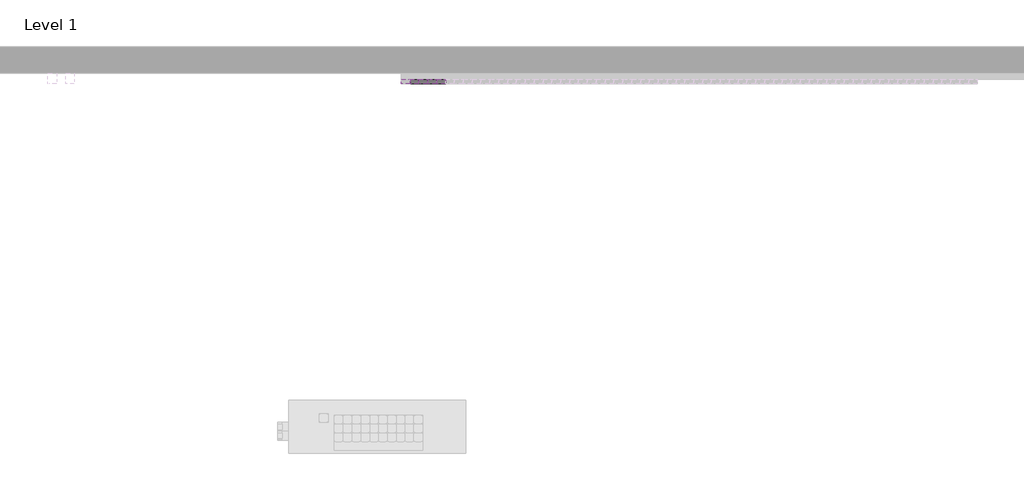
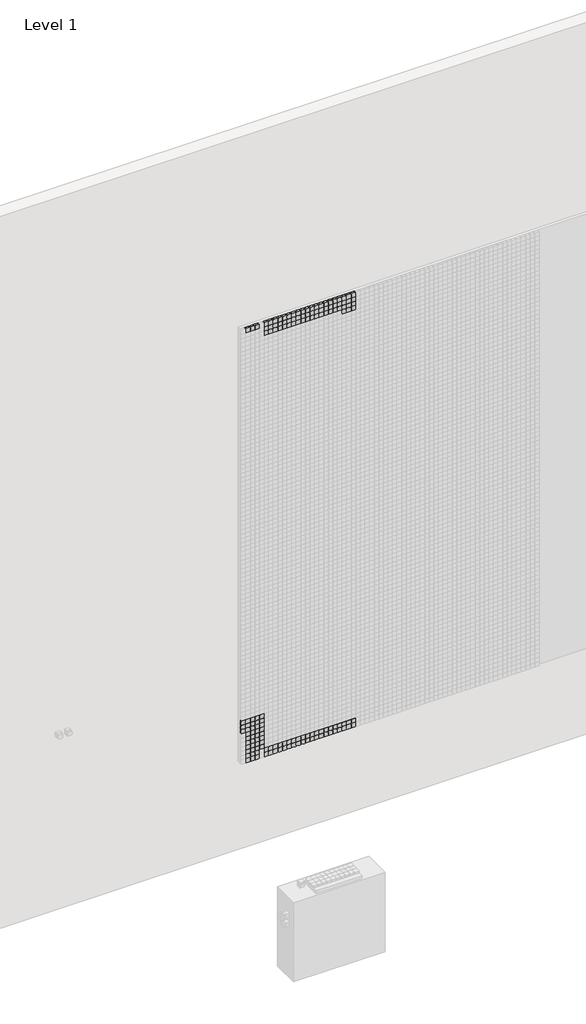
# One storey, part 7 of 71: 147 proxies.
"""IFC4 building model written with IfcOpenShell, lengths in millimetres."""

from ifc_helpers import new_model, si_unit, origin, place, context, project, spatial, transform, mapped, element, save
from components import generic_models_afde289c

model = new_model("IFC4")

# Units and contexts
model_context = context("Model", 3, world=origin())
ifc_project = project(units=[si_unit("LENGTHUNIT", "METRE", prefix="MILLI")], contexts=[model_context])

# Site, building, storey
site = spatial("IfcSite", under=ifc_project)
building = spatial("IfcBuilding", under=site)
storey = spatial("IfcBuildingStorey", under=building, Name="Level 1", Elevation=0.0)

# Proxies
placement = place(None, origin())
generic_models_shape = generic_models_afde289c(model_context)
element("IfcBuildingElementProxy", 1, Name="Pixel_M : Pixel_M", ObjectType="Pixel_M : Pixel_M", at=placement, inside=storey, context=model_context, shape_type="MappedRepresentation", body=[
    mapped(generic_models_shape, transform((5962.4280941, -75.0, 1016.3566215), x_axis=(1.0, 0.0, 0.0), y_axis=(0.0, 0.0, 1.0), z_axis=(0.0, -1.0, 0.0))),
])
element("IfcBuildingElementProxy", 2, Name="Pixel_M : Pixel_M", ObjectType="Pixel_M : Pixel_M", at=placement, inside=storey, context=model_context, shape_type="MappedRepresentation", body=[
    mapped(generic_models_shape, transform((5912.4280941, -75.0, 1016.3566215), x_axis=(1.0, 0.0, 0.0), y_axis=(0.0, 0.0, 1.0), z_axis=(0.0, -1.0, 0.0))),
])
element("IfcBuildingElementProxy", 3, Name="Pixel_M : Pixel_M", ObjectType="Pixel_M : Pixel_M", at=placement, inside=storey, context=model_context, shape_type="MappedRepresentation", body=[
    mapped(generic_models_shape, transform((5862.4280941, -75.0, 1016.3566215), x_axis=(1.0, 0.0, 0.0), y_axis=(0.0, 0.0, 1.0), z_axis=(0.0, -1.0, 0.0))),
])
element("IfcBuildingElementProxy", 4, Name="Pixel_M : Pixel_M", ObjectType="Pixel_M : Pixel_M", at=placement, inside=storey, context=model_context, shape_type="MappedRepresentation", body=[
    mapped(generic_models_shape, transform((5812.4280941, -75.0, 1016.3566215), x_axis=(1.0, 0.0, 0.0), y_axis=(0.0, 0.0, 1.0), z_axis=(0.0, -1.0, 0.0))),
])
element("IfcBuildingElementProxy", 5, Name="Pixel_M : Pixel_M", ObjectType="Pixel_M : Pixel_M", at=placement, inside=storey, context=model_context, shape_type="MappedRepresentation", body=[
    mapped(generic_models_shape, transform((5762.4280941, -75.0, 1016.3566215), x_axis=(1.0, 0.0, 0.0), y_axis=(0.0, 0.0, 1.0), z_axis=(0.0, -1.0, 0.0))),
])
element("IfcBuildingElementProxy", 6, Name="Pixel_M : Pixel_M", ObjectType="Pixel_M : Pixel_M", at=placement, inside=storey, context=model_context, shape_type="MappedRepresentation", body=[
    mapped(generic_models_shape, transform((5712.4280941, -75.0, 1016.3566215), x_axis=(1.0, 0.0, 0.0), y_axis=(0.0, 0.0, 1.0), z_axis=(0.0, -1.0, 0.0))),
])
element("IfcBuildingElementProxy", 7, Name="Pixel_M : Pixel_M", ObjectType="Pixel_M : Pixel_M", at=placement, inside=storey, context=model_context, shape_type="MappedRepresentation", body=[
    mapped(generic_models_shape, transform((5662.4280941, -75.0, 1016.3566215), x_axis=(1.0, 0.0, 0.0), y_axis=(0.0, 0.0, 1.0), z_axis=(0.0, -1.0, 0.0))),
])
element("IfcBuildingElementProxy", 8, Name="Pixel_M : Pixel_M", ObjectType="Pixel_M : Pixel_M", at=placement, inside=storey, context=model_context, shape_type="MappedRepresentation", body=[
    mapped(generic_models_shape, transform((5612.4280941, -75.0, 1016.3566215), x_axis=(1.0, 0.0, 0.0), y_axis=(0.0, 0.0, 1.0), z_axis=(0.0, -1.0, 0.0))),
])
element("IfcBuildingElementProxy", 9, Name="Pixel_M : Pixel_M", ObjectType="Pixel_M : Pixel_M", at=placement, inside=storey, context=model_context, shape_type="MappedRepresentation", body=[
    mapped(generic_models_shape, transform((5562.4280941, -75.0, 1016.3566215), x_axis=(1.0, 0.0, 0.0), y_axis=(0.0, 0.0, 1.0), z_axis=(0.0, -1.0, 0.0))),
])
element("IfcBuildingElementProxy", 10, Name="Pixel_M : Pixel_M", ObjectType="Pixel_M : Pixel_M", at=placement, inside=storey, context=model_context, shape_type="MappedRepresentation", body=[
    mapped(generic_models_shape, transform((5512.4280941, -75.0, 1016.3566215), x_axis=(1.0, 0.0, 0.0), y_axis=(0.0, 0.0, 1.0), z_axis=(0.0, -1.0, 0.0))),
])
element("IfcBuildingElementProxy", 11, Name="Pixel_M : Pixel_M", ObjectType="Pixel_M : Pixel_M", at=placement, inside=storey, context=model_context, shape_type="MappedRepresentation", body=[
    mapped(generic_models_shape, transform((5462.4280941, -75.0, 1016.3566215), x_axis=(1.0, 0.0, 0.0), y_axis=(0.0, 0.0, 1.0), z_axis=(0.0, -1.0, 0.0))),
])
element("IfcBuildingElementProxy", 12, Name="Pixel_M : Pixel_M", ObjectType="Pixel_M : Pixel_M", at=placement, inside=storey, context=model_context, shape_type="MappedRepresentation", body=[
    mapped(generic_models_shape, transform((5412.4280941, -75.0, 1016.3566215), x_axis=(1.0, 0.0, 0.0), y_axis=(0.0, 0.0, 1.0), z_axis=(0.0, -1.0, 0.0))),
])
element("IfcBuildingElementProxy", 13, Name="Pixel_M : Pixel_M", ObjectType="Pixel_M : Pixel_M", at=placement, inside=storey, context=model_context, shape_type="MappedRepresentation", body=[
    mapped(generic_models_shape, transform((5362.4280941, -75.0, 1016.3566215), x_axis=(1.0, 0.0, 0.0), y_axis=(0.0, 0.0, 1.0), z_axis=(0.0, -1.0, 0.0))),
])
element("IfcBuildingElementProxy", 14, Name="Pixel_M : Pixel_M", ObjectType="Pixel_M : Pixel_M", at=placement, inside=storey, context=model_context, shape_type="MappedRepresentation", body=[
    mapped(generic_models_shape, transform((5312.4280941, -75.0, 1016.3566215), x_axis=(1.0, 0.0, 0.0), y_axis=(0.0, 0.0, 1.0), z_axis=(0.0, -1.0, 0.0))),
])
element("IfcBuildingElementProxy", 15, Name="Pixel_M : Pixel_M", ObjectType="Pixel_M : Pixel_M", at=placement, inside=storey, context=model_context, shape_type="MappedRepresentation", body=[
    mapped(generic_models_shape, transform((5262.4280941, -75.0, 1016.3566215), x_axis=(1.0, 0.0, 0.0), y_axis=(0.0, 0.0, 1.0), z_axis=(0.0, -1.0, 0.0))),
])
element("IfcBuildingElementProxy", 16, Name="Pixel_M : Pixel_M", ObjectType="Pixel_M : Pixel_M", at=placement, inside=storey, context=model_context, shape_type="MappedRepresentation", body=[
    mapped(generic_models_shape, transform((5212.4280941, -75.0, 1016.3566215), x_axis=(1.0, 0.0, 0.0), y_axis=(0.0, 0.0, 1.0), z_axis=(0.0, -1.0, 0.0))),
])
element("IfcBuildingElementProxy", 17, Name="Pixel_M : Pixel_M", ObjectType="Pixel_M : Pixel_M", at=placement, inside=storey, context=model_context, shape_type="MappedRepresentation", body=[
    mapped(generic_models_shape, transform((5162.4280941, -75.0, 1016.3566215), x_axis=(1.0, 0.0, 0.0), y_axis=(0.0, 0.0, 1.0), z_axis=(0.0, -1.0, 0.0))),
])
element("IfcBuildingElementProxy", 18, Name="Pixel_M : Pixel_M", ObjectType="Pixel_M : Pixel_M", at=placement, inside=storey, context=model_context, shape_type="MappedRepresentation", body=[
    mapped(generic_models_shape, transform((5112.4280941, -75.0, 1016.3566215), x_axis=(1.0, 0.0, 0.0), y_axis=(0.0, 0.0, 1.0), z_axis=(0.0, -1.0, 0.0))),
])
element("IfcBuildingElementProxy", 19, Name="Pixel_M : Pixel_M", ObjectType="Pixel_M : Pixel_M", at=placement, inside=storey, context=model_context, shape_type="MappedRepresentation", body=[
    mapped(generic_models_shape, transform((5062.4280941, -75.0, 1016.3566215), x_axis=(1.0, 0.0, 0.0), y_axis=(0.0, 0.0, 1.0), z_axis=(0.0, -1.0, 0.0))),
])
element("IfcBuildingElementProxy", 20, Name="Pixel_M : Pixel_M", ObjectType="Pixel_M : Pixel_M", at=placement, inside=storey, context=model_context, shape_type="MappedRepresentation", body=[
    mapped(generic_models_shape, transform((5012.4280941, -75.0, 1016.3566215), x_axis=(1.0, 0.0, 0.0), y_axis=(0.0, 0.0, 1.0), z_axis=(0.0, -1.0, 0.0))),
])
element("IfcBuildingElementProxy", 21, Name="Pixel_M : Pixel_M", ObjectType="Pixel_M : Pixel_M", at=placement, inside=storey, context=model_context, shape_type="MappedRepresentation", body=[
    mapped(generic_models_shape, transform((5962.4280941, -75.0, 1066.3566215), x_axis=(1.0, 0.0, 0.0), y_axis=(0.0, 0.0, 1.0), z_axis=(0.0, -1.0, 0.0))),
])
element("IfcBuildingElementProxy", 22, Name="Pixel_M : Pixel_M", ObjectType="Pixel_M : Pixel_M", at=placement, inside=storey, context=model_context, shape_type="MappedRepresentation", body=[
    mapped(generic_models_shape, transform((5912.4280941, -75.0, 1066.3566215), x_axis=(1.0, 0.0, 0.0), y_axis=(0.0, 0.0, 1.0), z_axis=(0.0, -1.0, 0.0))),
])
element("IfcBuildingElementProxy", 23, Name="Pixel_M : Pixel_M", ObjectType="Pixel_M : Pixel_M", at=placement, inside=storey, context=model_context, shape_type="MappedRepresentation", body=[
    mapped(generic_models_shape, transform((5862.4280941, -75.0, 1066.3566215), x_axis=(1.0, 0.0, 0.0), y_axis=(0.0, 0.0, 1.0), z_axis=(0.0, -1.0, 0.0))),
])
element("IfcBuildingElementProxy", 24, Name="Pixel_M : Pixel_M", ObjectType="Pixel_M : Pixel_M", at=placement, inside=storey, context=model_context, shape_type="MappedRepresentation", body=[
    mapped(generic_models_shape, transform((5812.4280941, -75.0, 1066.3566215), x_axis=(1.0, 0.0, 0.0), y_axis=(0.0, 0.0, 1.0), z_axis=(0.0, -1.0, 0.0))),
])
element("IfcBuildingElementProxy", 25, Name="Pixel_M : Pixel_M", ObjectType="Pixel_M : Pixel_M", at=placement, inside=storey, context=model_context, shape_type="MappedRepresentation", body=[
    mapped(generic_models_shape, transform((5762.4280941, -75.0, 1066.3566215), x_axis=(1.0, 0.0, 0.0), y_axis=(0.0, 0.0, 1.0), z_axis=(0.0, -1.0, 0.0))),
])
element("IfcBuildingElementProxy", 26, Name="Pixel_M : Pixel_M", ObjectType="Pixel_M : Pixel_M", at=placement, inside=storey, context=model_context, shape_type="MappedRepresentation", body=[
    mapped(generic_models_shape, transform((5712.4280941, -75.0, 1066.3566215), x_axis=(1.0, 0.0, 0.0), y_axis=(0.0, 0.0, 1.0), z_axis=(0.0, -1.0, 0.0))),
])
element("IfcBuildingElementProxy", 27, Name="Pixel_M : Pixel_M", ObjectType="Pixel_M : Pixel_M", at=placement, inside=storey, context=model_context, shape_type="MappedRepresentation", body=[
    mapped(generic_models_shape, transform((5662.4280941, -75.0, 1066.3566215), x_axis=(1.0, 0.0, 0.0), y_axis=(0.0, 0.0, 1.0), z_axis=(0.0, -1.0, 0.0))),
])
element("IfcBuildingElementProxy", 28, Name="Pixel_M : Pixel_M", ObjectType="Pixel_M : Pixel_M", at=placement, inside=storey, context=model_context, shape_type="MappedRepresentation", body=[
    mapped(generic_models_shape, transform((5612.4280941, -75.0, 1066.3566215), x_axis=(1.0, 0.0, 0.0), y_axis=(0.0, 0.0, 1.0), z_axis=(0.0, -1.0, 0.0))),
])
element("IfcBuildingElementProxy", 29, Name="Pixel_M : Pixel_M", ObjectType="Pixel_M : Pixel_M", at=placement, inside=storey, context=model_context, shape_type="MappedRepresentation", body=[
    mapped(generic_models_shape, transform((5562.4280941, -75.0, 1066.3566215), x_axis=(1.0, 0.0, 0.0), y_axis=(0.0, 0.0, 1.0), z_axis=(0.0, -1.0, 0.0))),
])
element("IfcBuildingElementProxy", 30, Name="Pixel_M : Pixel_M", ObjectType="Pixel_M : Pixel_M", at=placement, inside=storey, context=model_context, shape_type="MappedRepresentation", body=[
    mapped(generic_models_shape, transform((5512.4280941, -75.0, 1066.3566215), x_axis=(1.0, 0.0, 0.0), y_axis=(0.0, 0.0, 1.0), z_axis=(0.0, -1.0, 0.0))),
])
element("IfcBuildingElementProxy", 31, Name="Pixel_M : Pixel_M", ObjectType="Pixel_M : Pixel_M", at=placement, inside=storey, context=model_context, shape_type="MappedRepresentation", body=[
    mapped(generic_models_shape, transform((5462.4280941, -75.0, 1066.3566215), x_axis=(1.0, 0.0, 0.0), y_axis=(0.0, 0.0, 1.0), z_axis=(0.0, -1.0, 0.0))),
])
element("IfcBuildingElementProxy", 32, Name="Pixel_M : Pixel_M", ObjectType="Pixel_M : Pixel_M", at=placement, inside=storey, context=model_context, shape_type="MappedRepresentation", body=[
    mapped(generic_models_shape, transform((5412.4280941, -75.0, 1066.3566215), x_axis=(1.0, 0.0, 0.0), y_axis=(0.0, 0.0, 1.0), z_axis=(0.0, -1.0, 0.0))),
])
element("IfcBuildingElementProxy", 33, Name="Pixel_M : Pixel_M", ObjectType="Pixel_M : Pixel_M", at=placement, inside=storey, context=model_context, shape_type="MappedRepresentation", body=[
    mapped(generic_models_shape, transform((5362.4280941, -75.0, 1066.3566215), x_axis=(1.0, 0.0, 0.0), y_axis=(0.0, 0.0, 1.0), z_axis=(0.0, -1.0, 0.0))),
])
element("IfcBuildingElementProxy", 34, Name="Pixel_M : Pixel_M", ObjectType="Pixel_M : Pixel_M", at=placement, inside=storey, context=model_context, shape_type="MappedRepresentation", body=[
    mapped(generic_models_shape, transform((5312.4280941, -75.0, 1066.3566215), x_axis=(1.0, 0.0, 0.0), y_axis=(0.0, 0.0, 1.0), z_axis=(0.0, -1.0, 0.0))),
])
element("IfcBuildingElementProxy", 35, Name="Pixel_M : Pixel_M", ObjectType="Pixel_M : Pixel_M", at=placement, inside=storey, context=model_context, shape_type="MappedRepresentation", body=[
    mapped(generic_models_shape, transform((5262.4280941, -75.0, 1066.3566215), x_axis=(1.0, 0.0, 0.0), y_axis=(0.0, 0.0, 1.0), z_axis=(0.0, -1.0, 0.0))),
])
element("IfcBuildingElementProxy", 36, Name="Pixel_M : Pixel_M", ObjectType="Pixel_M : Pixel_M", at=placement, inside=storey, context=model_context, shape_type="MappedRepresentation", body=[
    mapped(generic_models_shape, transform((5212.4280941, -75.0, 1066.3566215), x_axis=(1.0, 0.0, 0.0), y_axis=(0.0, 0.0, 1.0), z_axis=(0.0, -1.0, 0.0))),
])
element("IfcBuildingElementProxy", 37, Name="Pixel_M : Pixel_M", ObjectType="Pixel_M : Pixel_M", at=placement, inside=storey, context=model_context, shape_type="MappedRepresentation", body=[
    mapped(generic_models_shape, transform((5162.4280941, -75.0, 1066.3566215), x_axis=(1.0, 0.0, 0.0), y_axis=(0.0, 0.0, 1.0), z_axis=(0.0, -1.0, 0.0))),
])
element("IfcBuildingElementProxy", 38, Name="Pixel_M : Pixel_M", ObjectType="Pixel_M : Pixel_M", at=placement, inside=storey, context=model_context, shape_type="MappedRepresentation", body=[
    mapped(generic_models_shape, transform((5112.4280941, -75.0, 1066.3566215), x_axis=(1.0, 0.0, 0.0), y_axis=(0.0, 0.0, 1.0), z_axis=(0.0, -1.0, 0.0))),
])
element("IfcBuildingElementProxy", 39, Name="Pixel_M : Pixel_M", ObjectType="Pixel_M : Pixel_M", at=placement, inside=storey, context=model_context, shape_type="MappedRepresentation", body=[
    mapped(generic_models_shape, transform((5062.4280941, -75.0, 1066.3566215), x_axis=(1.0, 0.0, 0.0), y_axis=(0.0, 0.0, 1.0), z_axis=(0.0, -1.0, 0.0))),
])
element("IfcBuildingElementProxy", 40, Name="Pixel_M : Pixel_M", ObjectType="Pixel_M : Pixel_M", at=placement, inside=storey, context=model_context, shape_type="MappedRepresentation", body=[
    mapped(generic_models_shape, transform((5012.4280941, -75.0, 1066.3566215), x_axis=(1.0, 0.0, 0.0), y_axis=(0.0, 0.0, 1.0), z_axis=(0.0, -1.0, 0.0))),
])
element("IfcBuildingElementProxy", 41, Name="Pixel_M : Pixel_M", ObjectType="Pixel_M : Pixel_M", at=placement, inside=storey, context=model_context, shape_type="MappedRepresentation", body=[
    mapped(generic_models_shape, transform((5962.4280941, -75.0, 5966.3566215), x_axis=(1.0, 0.0, 0.0), y_axis=(0.0, 0.0, 1.0), z_axis=(0.0, -1.0, 0.0))),
])
element("IfcBuildingElementProxy", 42, Name="Pixel_M : Pixel_M", ObjectType="Pixel_M : Pixel_M", at=placement, inside=storey, context=model_context, shape_type="MappedRepresentation", body=[
    mapped(generic_models_shape, transform((5912.4280941, -75.0, 5966.3566215), x_axis=(1.0, 0.0, 0.0), y_axis=(0.0, 0.0, 1.0), z_axis=(0.0, -1.0, 0.0))),
])
element("IfcBuildingElementProxy", 43, Name="Pixel_M : Pixel_M", ObjectType="Pixel_M : Pixel_M", at=placement, inside=storey, context=model_context, shape_type="MappedRepresentation", body=[
    mapped(generic_models_shape, transform((5862.4280941, -75.0, 5966.3566215), x_axis=(1.0, 0.0, 0.0), y_axis=(0.0, 0.0, 1.0), z_axis=(0.0, -1.0, 0.0))),
])
element("IfcBuildingElementProxy", 44, Name="Pixel_M : Pixel_M", ObjectType="Pixel_M : Pixel_M", at=placement, inside=storey, context=model_context, shape_type="MappedRepresentation", body=[
    mapped(generic_models_shape, transform((5812.4280941, -75.0, 5966.3566215), x_axis=(1.0, 0.0, 0.0), y_axis=(0.0, 0.0, 1.0), z_axis=(0.0, -1.0, 0.0))),
])
element("IfcBuildingElementProxy", 45, Name="Pixel_M : Pixel_M", ObjectType="Pixel_M : Pixel_M", at=placement, inside=storey, context=model_context, shape_type="MappedRepresentation", body=[
    mapped(generic_models_shape, transform((5762.4280941, -75.0, 5966.3566215), x_axis=(1.0, 0.0, 0.0), y_axis=(0.0, 0.0, 1.0), z_axis=(0.0, -1.0, 0.0))),
])
element("IfcBuildingElementProxy", 46, Name="Pixel_M : Pixel_M", ObjectType="Pixel_M : Pixel_M", at=placement, inside=storey, context=model_context, shape_type="MappedRepresentation", body=[
    mapped(generic_models_shape, transform((5712.4280941, -75.0, 5966.3566215), x_axis=(1.0, 0.0, 0.0), y_axis=(0.0, 0.0, 1.0), z_axis=(0.0, -1.0, 0.0))),
])
element("IfcBuildingElementProxy", 47, Name="Pixel_M : Pixel_M", ObjectType="Pixel_M : Pixel_M", at=placement, inside=storey, context=model_context, shape_type="MappedRepresentation", body=[
    mapped(generic_models_shape, transform((5662.4280941, -75.0, 5966.3566215), x_axis=(1.0, 0.0, 0.0), y_axis=(0.0, 0.0, 1.0), z_axis=(0.0, -1.0, 0.0))),
])
element("IfcBuildingElementProxy", 48, Name="Pixel_M : Pixel_M", ObjectType="Pixel_M : Pixel_M", at=placement, inside=storey, context=model_context, shape_type="MappedRepresentation", body=[
    mapped(generic_models_shape, transform((5612.4280941, -75.0, 5966.3566215), x_axis=(1.0, 0.0, 0.0), y_axis=(0.0, 0.0, 1.0), z_axis=(0.0, -1.0, 0.0))),
])
element("IfcBuildingElementProxy", 49, Name="Pixel_M : Pixel_M", ObjectType="Pixel_M : Pixel_M", at=placement, inside=storey, context=model_context, shape_type="MappedRepresentation", body=[
    mapped(generic_models_shape, transform((5562.4280941, -75.0, 5966.3566215), x_axis=(1.0, 0.0, 0.0), y_axis=(0.0, 0.0, 1.0), z_axis=(0.0, -1.0, 0.0))),
])
element("IfcBuildingElementProxy", 50, Name="Pixel_M : Pixel_M", ObjectType="Pixel_M : Pixel_M", at=placement, inside=storey, context=model_context, shape_type="MappedRepresentation", body=[
    mapped(generic_models_shape, transform((5512.4280941, -75.0, 5966.3566215), x_axis=(1.0, 0.0, 0.0), y_axis=(0.0, 0.0, 1.0), z_axis=(0.0, -1.0, 0.0))),
])
element("IfcBuildingElementProxy", 51, Name="Pixel_M : Pixel_M", ObjectType="Pixel_M : Pixel_M", at=placement, inside=storey, context=model_context, shape_type="MappedRepresentation", body=[
    mapped(generic_models_shape, transform((5462.4280941, -75.0, 5966.3566215), x_axis=(1.0, 0.0, 0.0), y_axis=(0.0, 0.0, 1.0), z_axis=(0.0, -1.0, 0.0))),
])
element("IfcBuildingElementProxy", 52, Name="Pixel_M : Pixel_M", ObjectType="Pixel_M : Pixel_M", at=placement, inside=storey, context=model_context, shape_type="MappedRepresentation", body=[
    mapped(generic_models_shape, transform((5412.4280941, -75.0, 5966.3566215), x_axis=(1.0, 0.0, 0.0), y_axis=(0.0, 0.0, 1.0), z_axis=(0.0, -1.0, 0.0))),
])
element("IfcBuildingElementProxy", 53, Name="Pixel_M : Pixel_M", ObjectType="Pixel_M : Pixel_M", at=placement, inside=storey, context=model_context, shape_type="MappedRepresentation", body=[
    mapped(generic_models_shape, transform((5362.4280941, -75.0, 5966.3566215), x_axis=(1.0, 0.0, 0.0), y_axis=(0.0, 0.0, 1.0), z_axis=(0.0, -1.0, 0.0))),
])
element("IfcBuildingElementProxy", 54, Name="Pixel_M : Pixel_M", ObjectType="Pixel_M : Pixel_M", at=placement, inside=storey, context=model_context, shape_type="MappedRepresentation", body=[
    mapped(generic_models_shape, transform((5312.4280941, -75.0, 5966.3566215), x_axis=(1.0, 0.0, 0.0), y_axis=(0.0, 0.0, 1.0), z_axis=(0.0, -1.0, 0.0))),
])
element("IfcBuildingElementProxy", 55, Name="Pixel_M : Pixel_M", ObjectType="Pixel_M : Pixel_M", at=placement, inside=storey, context=model_context, shape_type="MappedRepresentation", body=[
    mapped(generic_models_shape, transform((5262.4280941, -75.0, 5966.3566215), x_axis=(1.0, 0.0, 0.0), y_axis=(0.0, 0.0, 1.0), z_axis=(0.0, -1.0, 0.0))),
])
element("IfcBuildingElementProxy", 56, Name="Pixel_M : Pixel_M", ObjectType="Pixel_M : Pixel_M", at=placement, inside=storey, context=model_context, shape_type="MappedRepresentation", body=[
    mapped(generic_models_shape, transform((5212.4280941, -75.0, 5966.3566215), x_axis=(1.0, 0.0, 0.0), y_axis=(0.0, 0.0, 1.0), z_axis=(0.0, -1.0, 0.0))),
])
element("IfcBuildingElementProxy", 57, Name="Pixel_M : Pixel_M", ObjectType="Pixel_M : Pixel_M", at=placement, inside=storey, context=model_context, shape_type="MappedRepresentation", body=[
    mapped(generic_models_shape, transform((5162.4280941, -75.0, 5966.3566215), x_axis=(1.0, 0.0, 0.0), y_axis=(0.0, 0.0, 1.0), z_axis=(0.0, -1.0, 0.0))),
])
element("IfcBuildingElementProxy", 58, Name="Pixel_M : Pixel_M", ObjectType="Pixel_M : Pixel_M", at=placement, inside=storey, context=model_context, shape_type="MappedRepresentation", body=[
    mapped(generic_models_shape, transform((5112.4280941, -75.0, 5966.3566215), x_axis=(1.0, 0.0, 0.0), y_axis=(0.0, 0.0, 1.0), z_axis=(0.0, -1.0, 0.0))),
])
element("IfcBuildingElementProxy", 59, Name="Pixel_M : Pixel_M", ObjectType="Pixel_M : Pixel_M", at=placement, inside=storey, context=model_context, shape_type="MappedRepresentation", body=[
    mapped(generic_models_shape, transform((5062.4280941, -75.0, 5966.3566215), x_axis=(1.0, 0.0, 0.0), y_axis=(0.0, 0.0, 1.0), z_axis=(0.0, -1.0, 0.0))),
])
element("IfcBuildingElementProxy", 60, Name="Pixel_M : Pixel_M", ObjectType="Pixel_M : Pixel_M", at=placement, inside=storey, context=model_context, shape_type="MappedRepresentation", body=[
    mapped(generic_models_shape, transform((5012.4280941, -75.0, 5966.3566215), x_axis=(1.0, 0.0, 0.0), y_axis=(0.0, 0.0, 1.0), z_axis=(0.0, -1.0, 0.0))),
])
element("IfcBuildingElementProxy", 61, Name="Pixel_M : Pixel_M", ObjectType="Pixel_M : Pixel_M", at=placement, inside=storey, context=model_context, shape_type="MappedRepresentation", body=[
    mapped(generic_models_shape, transform((5962.4280941, -75.0, 5916.3566215), x_axis=(1.0, 0.0, 0.0), y_axis=(0.0, 0.0, 1.0), z_axis=(0.0, -1.0, 0.0))),
])
element("IfcBuildingElementProxy", 62, Name="Pixel_M : Pixel_M", ObjectType="Pixel_M : Pixel_M", at=placement, inside=storey, context=model_context, shape_type="MappedRepresentation", body=[
    mapped(generic_models_shape, transform((5912.4280941, -75.0, 5916.3566215), x_axis=(1.0, 0.0, 0.0), y_axis=(0.0, 0.0, 1.0), z_axis=(0.0, -1.0, 0.0))),
])
element("IfcBuildingElementProxy", 63, Name="Pixel_M : Pixel_M", ObjectType="Pixel_M : Pixel_M", at=placement, inside=storey, context=model_context, shape_type="MappedRepresentation", body=[
    mapped(generic_models_shape, transform((5862.4280941, -75.0, 5916.3566215), x_axis=(1.0, 0.0, 0.0), y_axis=(0.0, 0.0, 1.0), z_axis=(0.0, -1.0, 0.0))),
])
element("IfcBuildingElementProxy", 64, Name="Pixel_M : Pixel_M", ObjectType="Pixel_M : Pixel_M", at=placement, inside=storey, context=model_context, shape_type="MappedRepresentation", body=[
    mapped(generic_models_shape, transform((5812.4280941, -75.0, 5916.3566215), x_axis=(1.0, 0.0, 0.0), y_axis=(0.0, 0.0, 1.0), z_axis=(0.0, -1.0, 0.0))),
])
element("IfcBuildingElementProxy", 65, Name="Pixel_M : Pixel_M", ObjectType="Pixel_M : Pixel_M", at=placement, inside=storey, context=model_context, shape_type="MappedRepresentation", body=[
    mapped(generic_models_shape, transform((5762.4280941, -75.0, 5916.3566215), x_axis=(1.0, 0.0, 0.0), y_axis=(0.0, 0.0, 1.0), z_axis=(0.0, -1.0, 0.0))),
])
element("IfcBuildingElementProxy", 66, Name="Pixel_M : Pixel_M", ObjectType="Pixel_M : Pixel_M", at=placement, inside=storey, context=model_context, shape_type="MappedRepresentation", body=[
    mapped(generic_models_shape, transform((5712.4280941, -75.0, 5916.3566215), x_axis=(1.0, 0.0, 0.0), y_axis=(0.0, 0.0, 1.0), z_axis=(0.0, -1.0, 0.0))),
])
element("IfcBuildingElementProxy", 67, Name="Pixel_M : Pixel_M", ObjectType="Pixel_M : Pixel_M", at=placement, inside=storey, context=model_context, shape_type="MappedRepresentation", body=[
    mapped(generic_models_shape, transform((5662.4280941, -75.0, 5916.3566215), x_axis=(1.0, 0.0, 0.0), y_axis=(0.0, 0.0, 1.0), z_axis=(0.0, -1.0, 0.0))),
])
element("IfcBuildingElementProxy", 68, Name="Pixel_M : Pixel_M", ObjectType="Pixel_M : Pixel_M", at=placement, inside=storey, context=model_context, shape_type="MappedRepresentation", body=[
    mapped(generic_models_shape, transform((5612.4280941, -75.0, 5916.3566215), x_axis=(1.0, 0.0, 0.0), y_axis=(0.0, 0.0, 1.0), z_axis=(0.0, -1.0, 0.0))),
])
element("IfcBuildingElementProxy", 69, Name="Pixel_M : Pixel_M", ObjectType="Pixel_M : Pixel_M", at=placement, inside=storey, context=model_context, shape_type="MappedRepresentation", body=[
    mapped(generic_models_shape, transform((5562.4280941, -75.0, 5916.3566215), x_axis=(1.0, 0.0, 0.0), y_axis=(0.0, 0.0, 1.0), z_axis=(0.0, -1.0, 0.0))),
])
element("IfcBuildingElementProxy", 70, Name="Pixel_M : Pixel_M", ObjectType="Pixel_M : Pixel_M", at=placement, inside=storey, context=model_context, shape_type="MappedRepresentation", body=[
    mapped(generic_models_shape, transform((5512.4280941, -75.0, 5916.3566215), x_axis=(1.0, 0.0, 0.0), y_axis=(0.0, 0.0, 1.0), z_axis=(0.0, -1.0, 0.0))),
])
element("IfcBuildingElementProxy", 71, Name="Pixel_M : Pixel_M", ObjectType="Pixel_M : Pixel_M", at=placement, inside=storey, context=model_context, shape_type="MappedRepresentation", body=[
    mapped(generic_models_shape, transform((5462.4280941, -75.0, 5916.3566215), x_axis=(1.0, 0.0, 0.0), y_axis=(0.0, 0.0, 1.0), z_axis=(0.0, -1.0, 0.0))),
])
element("IfcBuildingElementProxy", 72, Name="Pixel_M : Pixel_M", ObjectType="Pixel_M : Pixel_M", at=placement, inside=storey, context=model_context, shape_type="MappedRepresentation", body=[
    mapped(generic_models_shape, transform((5412.4280941, -75.0, 5916.3566215), x_axis=(1.0, 0.0, 0.0), y_axis=(0.0, 0.0, 1.0), z_axis=(0.0, -1.0, 0.0))),
])
element("IfcBuildingElementProxy", 73, Name="Pixel_M : Pixel_M", ObjectType="Pixel_M : Pixel_M", at=placement, inside=storey, context=model_context, shape_type="MappedRepresentation", body=[
    mapped(generic_models_shape, transform((5362.4280941, -75.0, 5916.3566215), x_axis=(1.0, 0.0, 0.0), y_axis=(0.0, 0.0, 1.0), z_axis=(0.0, -1.0, 0.0))),
])
element("IfcBuildingElementProxy", 74, Name="Pixel_M : Pixel_M", ObjectType="Pixel_M : Pixel_M", at=placement, inside=storey, context=model_context, shape_type="MappedRepresentation", body=[
    mapped(generic_models_shape, transform((5312.4280941, -75.0, 5916.3566215), x_axis=(1.0, 0.0, 0.0), y_axis=(0.0, 0.0, 1.0), z_axis=(0.0, -1.0, 0.0))),
])
element("IfcBuildingElementProxy", 75, Name="Pixel_M : Pixel_M", ObjectType="Pixel_M : Pixel_M", at=placement, inside=storey, context=model_context, shape_type="MappedRepresentation", body=[
    mapped(generic_models_shape, transform((5262.4280941, -75.0, 5916.3566215), x_axis=(1.0, 0.0, 0.0), y_axis=(0.0, 0.0, 1.0), z_axis=(0.0, -1.0, 0.0))),
])
element("IfcBuildingElementProxy", 76, Name="Pixel_M : Pixel_M", ObjectType="Pixel_M : Pixel_M", at=placement, inside=storey, context=model_context, shape_type="MappedRepresentation", body=[
    mapped(generic_models_shape, transform((5212.4280941, -75.0, 5916.3566215), x_axis=(1.0, 0.0, 0.0), y_axis=(0.0, 0.0, 1.0), z_axis=(0.0, -1.0, 0.0))),
])
element("IfcBuildingElementProxy", 77, Name="Pixel_M : Pixel_M", ObjectType="Pixel_M : Pixel_M", at=placement, inside=storey, context=model_context, shape_type="MappedRepresentation", body=[
    mapped(generic_models_shape, transform((5162.4280941, -75.0, 5916.3566215), x_axis=(1.0, 0.0, 0.0), y_axis=(0.0, 0.0, 1.0), z_axis=(0.0, -1.0, 0.0))),
])
element("IfcBuildingElementProxy", 78, Name="Pixel_M : Pixel_M", ObjectType="Pixel_M : Pixel_M", at=placement, inside=storey, context=model_context, shape_type="MappedRepresentation", body=[
    mapped(generic_models_shape, transform((5112.4280941, -75.0, 5916.3566215), x_axis=(1.0, 0.0, 0.0), y_axis=(0.0, 0.0, 1.0), z_axis=(0.0, -1.0, 0.0))),
])
element("IfcBuildingElementProxy", 79, Name="Pixel_M : Pixel_M", ObjectType="Pixel_M : Pixel_M", at=placement, inside=storey, context=model_context, shape_type="MappedRepresentation", body=[
    mapped(generic_models_shape, transform((5062.4280941, -75.0, 5916.3566215), x_axis=(1.0, 0.0, 0.0), y_axis=(0.0, 0.0, 1.0), z_axis=(0.0, -1.0, 0.0))),
])
element("IfcBuildingElementProxy", 80, Name="Pixel_M : Pixel_M", ObjectType="Pixel_M : Pixel_M", at=placement, inside=storey, context=model_context, shape_type="MappedRepresentation", body=[
    mapped(generic_models_shape, transform((5012.4280941, -75.0, 5916.3566215), x_axis=(1.0, 0.0, 0.0), y_axis=(0.0, 0.0, 1.0), z_axis=(0.0, -1.0, 0.0))),
])
element("IfcBuildingElementProxy", 81, Name="Pixel_M : Pixel_M", ObjectType="Pixel_M : Pixel_M", at=placement, inside=storey, context=model_context, shape_type="MappedRepresentation", body=[
    mapped(generic_models_shape, transform((5962.4280941, -75.0, 5866.3566215), x_axis=(1.0, 0.0, 0.0), y_axis=(0.0, 0.0, 1.0), z_axis=(0.0, -1.0, 0.0))),
])
element("IfcBuildingElementProxy", 82, Name="Pixel_M : Pixel_M", ObjectType="Pixel_M : Pixel_M", at=placement, inside=storey, context=model_context, shape_type="MappedRepresentation", body=[
    mapped(generic_models_shape, transform((5912.4280941, -75.0, 5866.3566215), x_axis=(1.0, 0.0, 0.0), y_axis=(0.0, 0.0, 1.0), z_axis=(0.0, -1.0, 0.0))),
])
element("IfcBuildingElementProxy", 83, Name="Pixel_M : Pixel_M", ObjectType="Pixel_M : Pixel_M", at=placement, inside=storey, context=model_context, shape_type="MappedRepresentation", body=[
    mapped(generic_models_shape, transform((5862.4280941, -75.0, 5866.3566215), x_axis=(1.0, 0.0, 0.0), y_axis=(0.0, 0.0, 1.0), z_axis=(0.0, -1.0, 0.0))),
])
element("IfcBuildingElementProxy", 84, Name="Pixel_M : Pixel_M", ObjectType="Pixel_M : Pixel_M", at=placement, inside=storey, context=model_context, shape_type="MappedRepresentation", body=[
    mapped(generic_models_shape, transform((5812.4280941, -75.0, 5866.3566215), x_axis=(1.0, 0.0, 0.0), y_axis=(0.0, 0.0, 1.0), z_axis=(0.0, -1.0, 0.0))),
])
element("IfcBuildingElementProxy", 85, Name="Pixel_M : Pixel_M", ObjectType="Pixel_M : Pixel_M", at=placement, inside=storey, context=model_context, shape_type="MappedRepresentation", body=[
    mapped(generic_models_shape, transform((5762.4280941, -75.0, 5866.3566215), x_axis=(1.0, 0.0, 0.0), y_axis=(0.0, 0.0, 1.0), z_axis=(0.0, -1.0, 0.0))),
])
element("IfcBuildingElementProxy", 86, Name="Pixel_M : Pixel_M", ObjectType="Pixel_M : Pixel_M", at=placement, inside=storey, context=model_context, shape_type="MappedRepresentation", body=[
    mapped(generic_models_shape, transform((5712.4280941, -75.0, 5866.3566215), x_axis=(1.0, 0.0, 0.0), y_axis=(0.0, 0.0, 1.0), z_axis=(0.0, -1.0, 0.0))),
])
element("IfcBuildingElementProxy", 87, Name="Pixel_M : Pixel_M", ObjectType="Pixel_M : Pixel_M", at=placement, inside=storey, context=model_context, shape_type="MappedRepresentation", body=[
    mapped(generic_models_shape, transform((5662.4280941, -75.0, 5866.3566215), x_axis=(1.0, 0.0, 0.0), y_axis=(0.0, 0.0, 1.0), z_axis=(0.0, -1.0, 0.0))),
])
element("IfcBuildingElementProxy", 88, Name="Pixel_M : Pixel_M", ObjectType="Pixel_M : Pixel_M", at=placement, inside=storey, context=model_context, shape_type="MappedRepresentation", body=[
    mapped(generic_models_shape, transform((5612.4280941, -75.0, 5866.3566215), x_axis=(1.0, 0.0, 0.0), y_axis=(0.0, 0.0, 1.0), z_axis=(0.0, -1.0, 0.0))),
])
element("IfcBuildingElementProxy", 89, Name="Pixel_M : Pixel_M", ObjectType="Pixel_M : Pixel_M", at=placement, inside=storey, context=model_context, shape_type="MappedRepresentation", body=[
    mapped(generic_models_shape, transform((5562.4280941, -75.0, 5866.3566215), x_axis=(1.0, 0.0, 0.0), y_axis=(0.0, 0.0, 1.0), z_axis=(0.0, -1.0, 0.0))),
])
element("IfcBuildingElementProxy", 90, Name="Pixel_M : Pixel_M", ObjectType="Pixel_M : Pixel_M", at=placement, inside=storey, context=model_context, shape_type="MappedRepresentation", body=[
    mapped(generic_models_shape, transform((5512.4280941, -75.0, 5866.3566215), x_axis=(1.0, 0.0, 0.0), y_axis=(0.0, 0.0, 1.0), z_axis=(0.0, -1.0, 0.0))),
])
element("IfcBuildingElementProxy", 91, Name="Pixel_M : Pixel_M", ObjectType="Pixel_M : Pixel_M", at=placement, inside=storey, context=model_context, shape_type="MappedRepresentation", body=[
    mapped(generic_models_shape, transform((5462.4280941, -75.0, 5866.3566215), x_axis=(1.0, 0.0, 0.0), y_axis=(0.0, 0.0, 1.0), z_axis=(0.0, -1.0, 0.0))),
])
element("IfcBuildingElementProxy", 92, Name="Pixel_M : Pixel_M", ObjectType="Pixel_M : Pixel_M", at=placement, inside=storey, context=model_context, shape_type="MappedRepresentation", body=[
    mapped(generic_models_shape, transform((5412.4280941, -75.0, 5866.3566215), x_axis=(1.0, 0.0, 0.0), y_axis=(0.0, 0.0, 1.0), z_axis=(0.0, -1.0, 0.0))),
])
element("IfcBuildingElementProxy", 93, Name="Pixel_M : Pixel_M", ObjectType="Pixel_M : Pixel_M", at=placement, inside=storey, context=model_context, shape_type="MappedRepresentation", body=[
    mapped(generic_models_shape, transform((5362.4280941, -75.0, 5866.3566215), x_axis=(1.0, 0.0, 0.0), y_axis=(0.0, 0.0, 1.0), z_axis=(0.0, -1.0, 0.0))),
])
element("IfcBuildingElementProxy", 94, Name="Pixel_M : Pixel_M", ObjectType="Pixel_M : Pixel_M", at=placement, inside=storey, context=model_context, shape_type="MappedRepresentation", body=[
    mapped(generic_models_shape, transform((5312.4280941, -75.0, 5866.3566215), x_axis=(1.0, 0.0, 0.0), y_axis=(0.0, 0.0, 1.0), z_axis=(0.0, -1.0, 0.0))),
])
element("IfcBuildingElementProxy", 95, Name="Pixel_M : Pixel_M", ObjectType="Pixel_M : Pixel_M", at=placement, inside=storey, context=model_context, shape_type="MappedRepresentation", body=[
    mapped(generic_models_shape, transform((5262.4280941, -75.0, 5866.3566215), x_axis=(1.0, 0.0, 0.0), y_axis=(0.0, 0.0, 1.0), z_axis=(0.0, -1.0, 0.0))),
])
element("IfcBuildingElementProxy", 96, Name="Pixel_M : Pixel_M", ObjectType="Pixel_M : Pixel_M", at=placement, inside=storey, context=model_context, shape_type="MappedRepresentation", body=[
    mapped(generic_models_shape, transform((5212.4280941, -75.0, 5866.3566215), x_axis=(1.0, 0.0, 0.0), y_axis=(0.0, 0.0, 1.0), z_axis=(0.0, -1.0, 0.0))),
])
element("IfcBuildingElementProxy", 97, Name="Pixel_M : Pixel_M", ObjectType="Pixel_M : Pixel_M", at=placement, inside=storey, context=model_context, shape_type="MappedRepresentation", body=[
    mapped(generic_models_shape, transform((5162.4280941, -75.0, 5866.3566215), x_axis=(1.0, 0.0, 0.0), y_axis=(0.0, 0.0, 1.0), z_axis=(0.0, -1.0, 0.0))),
])
element("IfcBuildingElementProxy", 98, Name="Pixel_M : Pixel_M", ObjectType="Pixel_M : Pixel_M", at=placement, inside=storey, context=model_context, shape_type="MappedRepresentation", body=[
    mapped(generic_models_shape, transform((5112.4280941, -75.0, 5866.3566215), x_axis=(1.0, 0.0, 0.0), y_axis=(0.0, 0.0, 1.0), z_axis=(0.0, -1.0, 0.0))),
])
element("IfcBuildingElementProxy", 99, Name="Pixel_M : Pixel_M", ObjectType="Pixel_M : Pixel_M", at=placement, inside=storey, context=model_context, shape_type="MappedRepresentation", body=[
    mapped(generic_models_shape, transform((5062.4280941, -75.0, 5866.3566215), x_axis=(1.0, 0.0, 0.0), y_axis=(0.0, 0.0, 1.0), z_axis=(0.0, -1.0, 0.0))),
])
element("IfcBuildingElementProxy", 100, Name="Pixel_M : Pixel_M", ObjectType="Pixel_M : Pixel_M", at=placement, inside=storey, context=model_context, shape_type="MappedRepresentation", body=[
    mapped(generic_models_shape, transform((5012.4280941, -75.0, 5866.3566215), x_axis=(1.0, 0.0, 0.0), y_axis=(0.0, 0.0, 1.0), z_axis=(0.0, -1.0, 0.0))),
])
element("IfcBuildingElementProxy", 101, Name="Pixel_M : Pixel_M", ObjectType="Pixel_M : Pixel_M", at=placement, inside=storey, context=model_context, shape_type="MappedRepresentation", body=[
    mapped(generic_models_shape, transform((5962.4280941, -75.0, 5816.3566215), x_axis=(1.0, 0.0, 0.0), y_axis=(0.0, 0.0, 1.0), z_axis=(0.0, -1.0, 0.0))),
])
element("IfcBuildingElementProxy", 102, Name="Pixel_M : Pixel_M", ObjectType="Pixel_M : Pixel_M", at=placement, inside=storey, context=model_context, shape_type="MappedRepresentation", body=[
    mapped(generic_models_shape, transform((5912.4280941, -75.0, 5816.3566215), x_axis=(1.0, 0.0, 0.0), y_axis=(0.0, 0.0, 1.0), z_axis=(0.0, -1.0, 0.0))),
])
element("IfcBuildingElementProxy", 103, Name="Pixel_M : Pixel_M", ObjectType="Pixel_M : Pixel_M", at=placement, inside=storey, context=model_context, shape_type="MappedRepresentation", body=[
    mapped(generic_models_shape, transform((5862.4280941, -75.0, 5816.3566215), x_axis=(1.0, 0.0, 0.0), y_axis=(0.0, 0.0, 1.0), z_axis=(0.0, -1.0, 0.0))),
])
element("IfcBuildingElementProxy", 104, Name="Pixel_M : Pixel_M", ObjectType="Pixel_M : Pixel_M", at=placement, inside=storey, context=model_context, shape_type="MappedRepresentation", body=[
    mapped(generic_models_shape, transform((4962.4280941, -75.0, 1466.3566215), x_axis=(1.0, 0.0, 0.0), y_axis=(0.0, 0.0, 1.0), z_axis=(0.0, -1.0, 0.0))),
])
element("IfcBuildingElementProxy", 105, Name="Pixel_M : Pixel_M", ObjectType="Pixel_M : Pixel_M", at=placement, inside=storey, context=model_context, shape_type="MappedRepresentation", body=[
    mapped(generic_models_shape, transform((4912.4280941, -75.0, 1466.3566215), x_axis=(1.0, 0.0, 0.0), y_axis=(0.0, 0.0, 1.0), z_axis=(0.0, -1.0, 0.0))),
])
element("IfcBuildingElementProxy", 106, Name="Pixel_M : Pixel_M", ObjectType="Pixel_M : Pixel_M", at=placement, inside=storey, context=model_context, shape_type="MappedRepresentation", body=[
    mapped(generic_models_shape, transform((4862.4280941, -75.0, 1466.3566215), x_axis=(1.0, 0.0, 0.0), y_axis=(0.0, 0.0, 1.0), z_axis=(0.0, -1.0, 0.0))),
])
element("IfcBuildingElementProxy", 107, Name="Pixel_M : Pixel_M", ObjectType="Pixel_M : Pixel_M", at=placement, inside=storey, context=model_context, shape_type="MappedRepresentation", body=[
    mapped(generic_models_shape, transform((4812.4280941, -75.0, 1466.3566215), x_axis=(1.0, 0.0, 0.0), y_axis=(0.0, 0.0, 1.0), z_axis=(0.0, -1.0, 0.0))),
])
element("IfcBuildingElementProxy", 108, Name="Pixel_M : Pixel_M", ObjectType="Pixel_M : Pixel_M", at=placement, inside=storey, context=model_context, shape_type="MappedRepresentation", body=[
    mapped(generic_models_shape, transform((4762.4280941, -75.0, 1466.3566215), x_axis=(1.0, 0.0, 0.0), y_axis=(0.0, 0.0, 1.0), z_axis=(0.0, -1.0, 0.0))),
])
element("IfcBuildingElementProxy", 109, Name="Pixel_M : Pixel_M", ObjectType="Pixel_M : Pixel_M", at=placement, inside=storey, context=model_context, shape_type="MappedRepresentation", body=[
    mapped(generic_models_shape, transform((4962.4280941, -75.0, 1416.3566215), x_axis=(1.0, 0.0, 0.0), y_axis=(0.0, 0.0, 1.0), z_axis=(0.0, -1.0, 0.0))),
])
element("IfcBuildingElementProxy", 110, Name="Pixel_M : Pixel_M", ObjectType="Pixel_M : Pixel_M", at=placement, inside=storey, context=model_context, shape_type="MappedRepresentation", body=[
    mapped(generic_models_shape, transform((4912.4280941, -75.0, 1416.3566215), x_axis=(1.0, 0.0, 0.0), y_axis=(0.0, 0.0, 1.0), z_axis=(0.0, -1.0, 0.0))),
])
element("IfcBuildingElementProxy", 111, Name="Pixel_M : Pixel_M", ObjectType="Pixel_M : Pixel_M", at=placement, inside=storey, context=model_context, shape_type="MappedRepresentation", body=[
    mapped(generic_models_shape, transform((4862.4280941, -75.0, 1416.3566215), x_axis=(1.0, 0.0, 0.0), y_axis=(0.0, 0.0, 1.0), z_axis=(0.0, -1.0, 0.0))),
])
element("IfcBuildingElementProxy", 112, Name="Pixel_M : Pixel_M", ObjectType="Pixel_M : Pixel_M", at=placement, inside=storey, context=model_context, shape_type="MappedRepresentation", body=[
    mapped(generic_models_shape, transform((4812.4280941, -75.0, 1416.3566215), x_axis=(1.0, 0.0, 0.0), y_axis=(0.0, 0.0, 1.0), z_axis=(0.0, -1.0, 0.0))),
])
element("IfcBuildingElementProxy", 113, Name="Pixel_M : Pixel_M", ObjectType="Pixel_M : Pixel_M", at=placement, inside=storey, context=model_context, shape_type="MappedRepresentation", body=[
    mapped(generic_models_shape, transform((4762.4280941, -75.0, 1416.3566215), x_axis=(1.0, 0.0, 0.0), y_axis=(0.0, 0.0, 1.0), z_axis=(0.0, -1.0, 0.0))),
])
element("IfcBuildingElementProxy", 114, Name="Pixel_M : Pixel_M", ObjectType="Pixel_M : Pixel_M", at=placement, inside=storey, context=model_context, shape_type="MappedRepresentation", body=[
    mapped(generic_models_shape, transform((4962.4280941, -75.0, 1366.3566215), x_axis=(1.0, 0.0, 0.0), y_axis=(0.0, 0.0, 1.0), z_axis=(0.0, -1.0, 0.0))),
])
element("IfcBuildingElementProxy", 115, Name="Pixel_M : Pixel_M", ObjectType="Pixel_M : Pixel_M", at=placement, inside=storey, context=model_context, shape_type="MappedRepresentation", body=[
    mapped(generic_models_shape, transform((4912.4280941, -75.0, 1366.3566215), x_axis=(1.0, 0.0, 0.0), y_axis=(0.0, 0.0, 1.0), z_axis=(0.0, -1.0, 0.0))),
])
element("IfcBuildingElementProxy", 116, Name="Pixel_M : Pixel_M", ObjectType="Pixel_M : Pixel_M", at=placement, inside=storey, context=model_context, shape_type="MappedRepresentation", body=[
    mapped(generic_models_shape, transform((4862.4280941, -75.0, 1366.3566215), x_axis=(1.0, 0.0, 0.0), y_axis=(0.0, 0.0, 1.0), z_axis=(0.0, -1.0, 0.0))),
])
element("IfcBuildingElementProxy", 117, Name="Pixel_M : Pixel_M", ObjectType="Pixel_M : Pixel_M", at=placement, inside=storey, context=model_context, shape_type="MappedRepresentation", body=[
    mapped(generic_models_shape, transform((4812.4280941, -75.0, 1366.3566215), x_axis=(1.0, 0.0, 0.0), y_axis=(0.0, 0.0, 1.0), z_axis=(0.0, -1.0, 0.0))),
])
element("IfcBuildingElementProxy", 118, Name="Pixel_M : Pixel_M", ObjectType="Pixel_M : Pixel_M", at=placement, inside=storey, context=model_context, shape_type="MappedRepresentation", body=[
    mapped(generic_models_shape, transform((4762.4280941, -75.0, 1366.3566215), x_axis=(1.0, 0.0, 0.0), y_axis=(0.0, 0.0, 1.0), z_axis=(0.0, -1.0, 0.0))),
])
element("IfcBuildingElementProxy", 119, Name="Pixel_M : Pixel_M", ObjectType="Pixel_M : Pixel_M", at=placement, inside=storey, context=model_context, shape_type="MappedRepresentation", body=[
    mapped(generic_models_shape, transform((4962.4280941, -75.0, 1316.3566215), x_axis=(1.0, 0.0, 0.0), y_axis=(0.0, 0.0, 1.0), z_axis=(0.0, -1.0, 0.0))),
])
element("IfcBuildingElementProxy", 120, Name="Pixel_M : Pixel_M", ObjectType="Pixel_M : Pixel_M", at=placement, inside=storey, context=model_context, shape_type="MappedRepresentation", body=[
    mapped(generic_models_shape, transform((4962.4280941, -75.0, 1266.3566215), x_axis=(1.0, 0.0, 0.0), y_axis=(0.0, 0.0, 1.0), z_axis=(0.0, -1.0, 0.0))),
])
element("IfcBuildingElementProxy", 121, Name="Pixel_M : Pixel_M", ObjectType="Pixel_M : Pixel_M", at=placement, inside=storey, context=model_context, shape_type="MappedRepresentation", body=[
    mapped(generic_models_shape, transform((4962.4280941, -75.0, 1216.3566215), x_axis=(1.0, 0.0, 0.0), y_axis=(0.0, 0.0, 1.0), z_axis=(0.0, -1.0, 0.0))),
])
element("IfcBuildingElementProxy", 122, Name="Pixel_M : Pixel_M", ObjectType="Pixel_M : Pixel_M", at=placement, inside=storey, context=model_context, shape_type="MappedRepresentation", body=[
    mapped(generic_models_shape, transform((4962.4280941, -75.0, 1166.3566215), x_axis=(1.0, 0.0, 0.0), y_axis=(0.0, 0.0, 1.0), z_axis=(0.0, -1.0, 0.0))),
])
element("IfcBuildingElementProxy", 123, Name="Pixel_M : Pixel_M", ObjectType="Pixel_M : Pixel_M", at=placement, inside=storey, context=model_context, shape_type="MappedRepresentation", body=[
    mapped(generic_models_shape, transform((4962.4280941, -75.0, 1116.3566215), x_axis=(1.0, 0.0, 0.0), y_axis=(0.0, 0.0, 1.0), z_axis=(0.0, -1.0, 0.0))),
])
element("IfcBuildingElementProxy", 124, Name="Pixel_M : Pixel_M", ObjectType="Pixel_M : Pixel_M", at=placement, inside=storey, context=model_context, shape_type="MappedRepresentation", body=[
    mapped(generic_models_shape, transform((4912.4280941, -75.0, 5966.3566215), x_axis=(1.0, 0.0, 0.0), y_axis=(0.0, 0.0, 1.0), z_axis=(0.0, -1.0, 0.0))),
])
element("IfcBuildingElementProxy", 125, Name="Pixel_M : Pixel_M", ObjectType="Pixel_M : Pixel_M", at=placement, inside=storey, context=model_context, shape_type="MappedRepresentation", body=[
    mapped(generic_models_shape, transform((4862.4280941, -75.0, 5966.3566215), x_axis=(1.0, 0.0, 0.0), y_axis=(0.0, 0.0, 1.0), z_axis=(0.0, -1.0, 0.0))),
])
element("IfcBuildingElementProxy", 126, Name="Pixel_M : Pixel_M", ObjectType="Pixel_M : Pixel_M", at=placement, inside=storey, context=model_context, shape_type="MappedRepresentation", body=[
    mapped(generic_models_shape, transform((4812.4280941, -75.0, 5966.3566215), x_axis=(1.0, 0.0, 0.0), y_axis=(0.0, 0.0, 1.0), z_axis=(0.0, -1.0, 0.0))),
])
element("IfcBuildingElementProxy", 127, Name="Pixel_M : Pixel_M", ObjectType="Pixel_M : Pixel_M", at=placement, inside=storey, context=model_context, shape_type="MappedRepresentation", body=[
    mapped(generic_models_shape, transform((4912.4280941, -75.0, 1316.3566215), x_axis=(1.0, 0.0, 0.0), y_axis=(0.0, 0.0, 1.0), z_axis=(0.0, -1.0, 0.0))),
])
element("IfcBuildingElementProxy", 128, Name="Pixel_M : Pixel_M", ObjectType="Pixel_M : Pixel_M", at=placement, inside=storey, context=model_context, shape_type="MappedRepresentation", body=[
    mapped(generic_models_shape, transform((4862.4280941, -75.0, 1316.3566215), x_axis=(1.0, 0.0, 0.0), y_axis=(0.0, 0.0, 1.0), z_axis=(0.0, -1.0, 0.0))),
])
element("IfcBuildingElementProxy", 129, Name="Pixel_M : Pixel_M", ObjectType="Pixel_M : Pixel_M", at=placement, inside=storey, context=model_context, shape_type="MappedRepresentation", body=[
    mapped(generic_models_shape, transform((4812.4280941, -75.0, 1316.3566215), x_axis=(1.0, 0.0, 0.0), y_axis=(0.0, 0.0, 1.0), z_axis=(0.0, -1.0, 0.0))),
])
element("IfcBuildingElementProxy", 130, Name="Pixel_M : Pixel_M", ObjectType="Pixel_M : Pixel_M", at=placement, inside=storey, context=model_context, shape_type="MappedRepresentation", body=[
    mapped(generic_models_shape, transform((4912.4280941, -75.0, 1266.3566215), x_axis=(1.0, 0.0, 0.0), y_axis=(0.0, 0.0, 1.0), z_axis=(0.0, -1.0, 0.0))),
])
element("IfcBuildingElementProxy", 131, Name="Pixel_M : Pixel_M", ObjectType="Pixel_M : Pixel_M", at=placement, inside=storey, context=model_context, shape_type="MappedRepresentation", body=[
    mapped(generic_models_shape, transform((4862.4280941, -75.0, 1266.3566215), x_axis=(1.0, 0.0, 0.0), y_axis=(0.0, 0.0, 1.0), z_axis=(0.0, -1.0, 0.0))),
])
element("IfcBuildingElementProxy", 132, Name="Pixel_M : Pixel_M", ObjectType="Pixel_M : Pixel_M", at=placement, inside=storey, context=model_context, shape_type="MappedRepresentation", body=[
    mapped(generic_models_shape, transform((4812.4280941, -75.0, 1266.3566215), x_axis=(1.0, 0.0, 0.0), y_axis=(0.0, 0.0, 1.0), z_axis=(0.0, -1.0, 0.0))),
])
element("IfcBuildingElementProxy", 133, Name="Pixel_M : Pixel_M", ObjectType="Pixel_M : Pixel_M", at=placement, inside=storey, context=model_context, shape_type="MappedRepresentation", body=[
    mapped(generic_models_shape, transform((4912.4280941, -75.0, 1216.3566215), x_axis=(1.0, 0.0, 0.0), y_axis=(0.0, 0.0, 1.0), z_axis=(0.0, -1.0, 0.0))),
])
element("IfcBuildingElementProxy", 134, Name="Pixel_M : Pixel_M", ObjectType="Pixel_M : Pixel_M", at=placement, inside=storey, context=model_context, shape_type="MappedRepresentation", body=[
    mapped(generic_models_shape, transform((4862.4280941, -75.0, 1216.3566215), x_axis=(1.0, 0.0, 0.0), y_axis=(0.0, 0.0, 1.0), z_axis=(0.0, -1.0, 0.0))),
])
element("IfcBuildingElementProxy", 135, Name="Pixel_M : Pixel_M", ObjectType="Pixel_M : Pixel_M", at=placement, inside=storey, context=model_context, shape_type="MappedRepresentation", body=[
    mapped(generic_models_shape, transform((4812.4280941, -75.0, 1216.3566215), x_axis=(1.0, 0.0, 0.0), y_axis=(0.0, 0.0, 1.0), z_axis=(0.0, -1.0, 0.0))),
])
element("IfcBuildingElementProxy", 136, Name="Pixel_M : Pixel_M", ObjectType="Pixel_M : Pixel_M", at=placement, inside=storey, context=model_context, shape_type="MappedRepresentation", body=[
    mapped(generic_models_shape, transform((4912.4280941, -75.0, 1166.3566215), x_axis=(1.0, 0.0, 0.0), y_axis=(0.0, 0.0, 1.0), z_axis=(0.0, -1.0, 0.0))),
])
element("IfcBuildingElementProxy", 137, Name="Pixel_M : Pixel_M", ObjectType="Pixel_M : Pixel_M", at=placement, inside=storey, context=model_context, shape_type="MappedRepresentation", body=[
    mapped(generic_models_shape, transform((4862.4280941, -75.0, 1166.3566215), x_axis=(1.0, 0.0, 0.0), y_axis=(0.0, 0.0, 1.0), z_axis=(0.0, -1.0, 0.0))),
])
element("IfcBuildingElementProxy", 138, Name="Pixel_M : Pixel_M", ObjectType="Pixel_M : Pixel_M", at=placement, inside=storey, context=model_context, shape_type="MappedRepresentation", body=[
    mapped(generic_models_shape, transform((4812.4280941, -75.0, 1166.3566215), x_axis=(1.0, 0.0, 0.0), y_axis=(0.0, 0.0, 1.0), z_axis=(0.0, -1.0, 0.0))),
])
element("IfcBuildingElementProxy", 139, Name="Pixel_M : Pixel_M", ObjectType="Pixel_M : Pixel_M", at=placement, inside=storey, context=model_context, shape_type="MappedRepresentation", body=[
    mapped(generic_models_shape, transform((4912.4280941, -75.0, 1116.3566215), x_axis=(1.0, 0.0, 0.0), y_axis=(0.0, 0.0, 1.0), z_axis=(0.0, -1.0, 0.0))),
])
element("IfcBuildingElementProxy", 140, Name="Pixel_M : Pixel_M", ObjectType="Pixel_M : Pixel_M", at=placement, inside=storey, context=model_context, shape_type="MappedRepresentation", body=[
    mapped(generic_models_shape, transform((4862.4280941, -75.0, 1116.3566215), x_axis=(1.0, 0.0, 0.0), y_axis=(0.0, 0.0, 1.0), z_axis=(0.0, -1.0, 0.0))),
])
element("IfcBuildingElementProxy", 141, Name="Pixel_M : Pixel_M", ObjectType="Pixel_M : Pixel_M", at=placement, inside=storey, context=model_context, shape_type="MappedRepresentation", body=[
    mapped(generic_models_shape, transform((4812.4280941, -75.0, 1116.3566215), x_axis=(1.0, 0.0, 0.0), y_axis=(0.0, 0.0, 1.0), z_axis=(0.0, -1.0, 0.0))),
])
element("IfcBuildingElementProxy", 142, Name="Pixel_M : Pixel_M", ObjectType="Pixel_M : Pixel_M", at=placement, inside=storey, context=model_context, shape_type="MappedRepresentation", body=[
    mapped(generic_models_shape, transform((4912.4280941, -75.0, 1016.3566215), x_axis=(1.0, 0.0, 0.0), y_axis=(0.0, 0.0, 1.0), z_axis=(0.0, -1.0, 0.0))),
])
element("IfcBuildingElementProxy", 143, Name="Pixel_M : Pixel_M", ObjectType="Pixel_M : Pixel_M", at=placement, inside=storey, context=model_context, shape_type="MappedRepresentation", body=[
    mapped(generic_models_shape, transform((4862.4280941, -75.0, 1016.3566215), x_axis=(1.0, 0.0, 0.0), y_axis=(0.0, 0.0, 1.0), z_axis=(0.0, -1.0, 0.0))),
])
element("IfcBuildingElementProxy", 144, Name="Pixel_M : Pixel_M", ObjectType="Pixel_M : Pixel_M", at=placement, inside=storey, context=model_context, shape_type="MappedRepresentation", body=[
    mapped(generic_models_shape, transform((4912.4280941, -75.0, 1066.3566215), x_axis=(1.0, 0.0, 0.0), y_axis=(0.0, 0.0, 1.0), z_axis=(0.0, -1.0, 0.0))),
])
element("IfcBuildingElementProxy", 145, Name="Pixel_M : Pixel_M", ObjectType="Pixel_M : Pixel_M", at=placement, inside=storey, context=model_context, shape_type="MappedRepresentation", body=[
    mapped(generic_models_shape, transform((4862.4280941, -75.0, 1066.3566215), x_axis=(1.0, 0.0, 0.0), y_axis=(0.0, 0.0, 1.0), z_axis=(0.0, -1.0, 0.0))),
])
element("IfcBuildingElementProxy", 146, Name="Pixel_M : Pixel_M", ObjectType="Pixel_M : Pixel_M", at=placement, inside=storey, context=model_context, shape_type="MappedRepresentation", body=[
    mapped(generic_models_shape, transform((4812.4280941, -75.0, 1066.3566215), x_axis=(1.0, 0.0, 0.0), y_axis=(0.0, 0.0, 1.0), z_axis=(0.0, -1.0, 0.0))),
])
element("IfcBuildingElementProxy", 147, Name="Pixel_M : Pixel_M", ObjectType="Pixel_M : Pixel_M", at=placement, inside=storey, context=model_context, shape_type="MappedRepresentation", body=[
    mapped(generic_models_shape, transform((4812.4280941, -75.0, 1016.3566215), x_axis=(1.0, 0.0, 0.0), y_axis=(0.0, 0.0, 1.0), z_axis=(0.0, -1.0, 0.0))),
])

save(model, "model.ifc")
